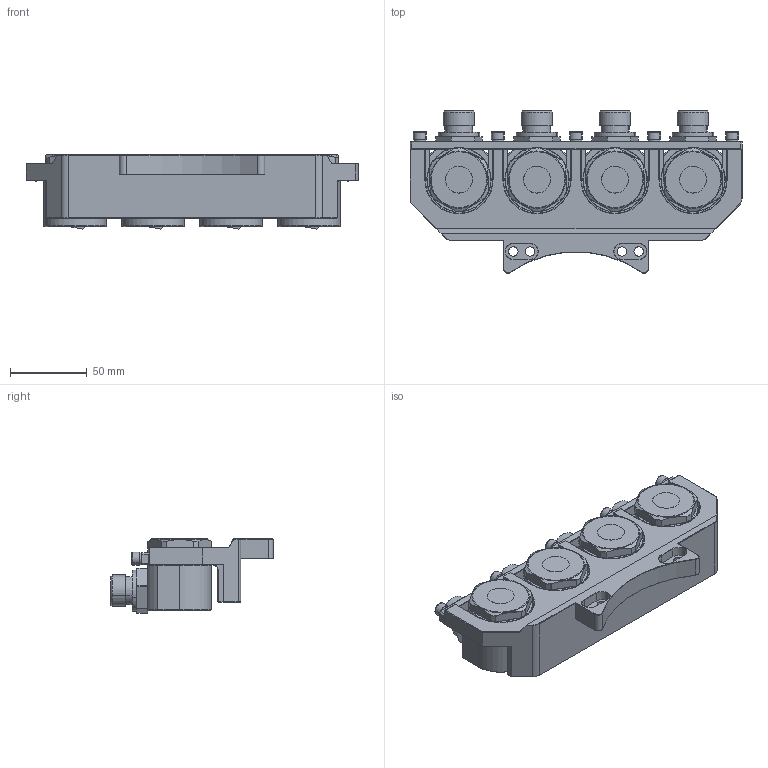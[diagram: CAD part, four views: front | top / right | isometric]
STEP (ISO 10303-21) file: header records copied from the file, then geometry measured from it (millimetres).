
FILE_DESCRIPTION(/* description */ (''),/* implementation_level */ '2;1');
FILE_NAME(/* name */ 'QCWM-04G1.stp',/* time_stamp */ '2023-09-26T14:58:07+08:00',/* author */ (''),/* organization */ (''),/* preprocessor_version */ 'ST-DEVELOPER v16.7',/* originating_system */ 'SIEMENS PLM Software NX 12.0',/* authorisation */ '');
FILE_SCHEMA (('AUTOMOTIVE_DESIGN { 1 0 10303 214 3 1 1 1 }'));
Length unit declared in the file: millimetre
Products named in the file (1): _model13
Bounding box: 217 x 106.13 x 48.65 mm (x, y, z)
Volume: 440611.3 mm3; surface area: 123302 mm2
Topology: 9 solids, 14 shells, 1284 faces, 3050 edges, 1774 vertices
Faces by surface type: plane 495, cylinder 363, cone 192, bspline 120, torus 114
Entity records: 49244 total; most frequent: CARTESIAN_POINT 13827, DIRECTION 6390, ORIENTED_EDGE 6060, EDGE_CURVE 3030, AXIS2_PLACEMENT_3D 2481, VERTEX_POINT 1774, LINE 1428, VECTOR 1428
